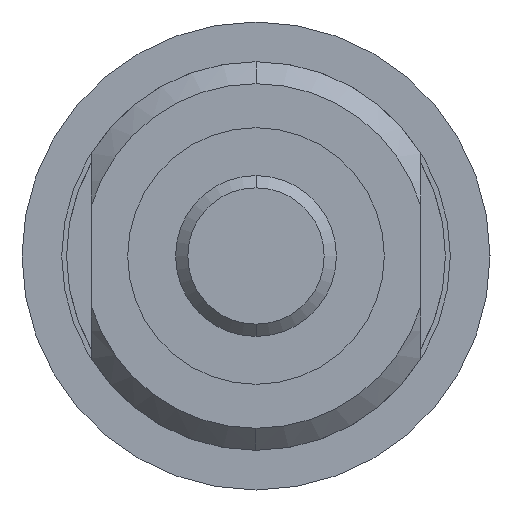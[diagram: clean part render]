
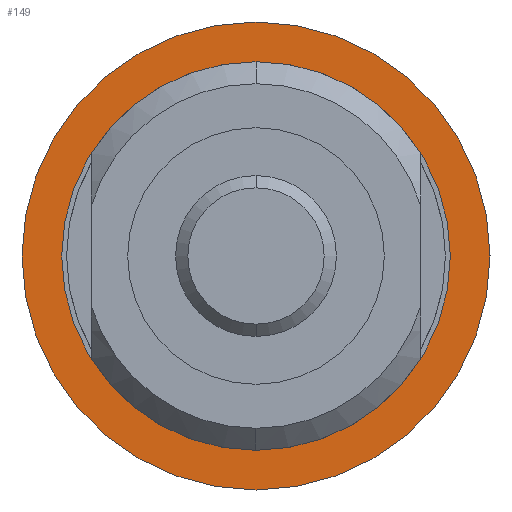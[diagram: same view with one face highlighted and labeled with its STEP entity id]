
A CAD part, left-side view. The second image highlights one B-rep face of the part: STEP entity #149.
In plain terms, the highlighted planar face has unit normal (-1, 0, 0).
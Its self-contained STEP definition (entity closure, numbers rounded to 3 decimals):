
#149=ADVANCED_FACE('',(#319,#320),#321,.T.);
#319=FACE_BOUND('',#505,.T.);
#320=FACE_OUTER_BOUND('',#506,.T.);
#321=PLANE('',#507);
#505=EDGE_LOOP('',(#1131,#1132));
#506=EDGE_LOOP('',(#1133,#1134));
#507=AXIS2_PLACEMENT_3D('',#1135,#1136,#1137);
#1131=ORIENTED_EDGE('',*,*,#1244,.F.);
#1132=ORIENTED_EDGE('',*,*,#1422,.F.);
#1133=ORIENTED_EDGE('',*,*,#1250,.T.);
#1134=ORIENTED_EDGE('',*,*,#1421,.T.);
#1135=CARTESIAN_POINT('',(52.5,0.,-17.525));
#1136=DIRECTION('',(-1.0,0.,0.));
#1137=DIRECTION('',(0.,0.0,-1.0));
#1244=EDGE_CURVE('',#1480,#1483,#1484,.T.);
#1250=EDGE_CURVE('',#1489,#1493,#1495,.T.);
#1421=EDGE_CURVE('',#1493,#1489,#1773,.T.);
#1422=EDGE_CURVE('',#1483,#1480,#1774,.T.);
#1480=VERTEX_POINT('',#1852);
#1483=VERTEX_POINT('',#1856);
#1484=CIRCLE('',#1857,15.9);
#1489=VERTEX_POINT('',#1863);
#1493=VERTEX_POINT('',#1868);
#1495=CIRCLE('',#1871,19.15);
#1773=CIRCLE('',#2293,19.15);
#1774=CIRCLE('',#2294,15.9);
#1852=CARTESIAN_POINT('',(52.5,0.,-15.9));
#1856=CARTESIAN_POINT('',(52.5,0.,15.9));
#1857=AXIS2_PLACEMENT_3D('',#2354,#2355,#2356);
#1863=CARTESIAN_POINT('',(52.5,0.,-19.15));
#1868=CARTESIAN_POINT('',(52.5,0.,19.15));
#1871=AXIS2_PLACEMENT_3D('',#2366,#2367,#2368);
#2293=AXIS2_PLACEMENT_3D('',#2636,#2637,#2638);
#2294=AXIS2_PLACEMENT_3D('',#2639,#2640,#2641);
#2354=CARTESIAN_POINT('',(52.5,0.,0.));
#2355=DIRECTION('',(-1.0,0.,0.));
#2356=DIRECTION('',(0.,0.0,-1.0));
#2366=CARTESIAN_POINT('',(52.5,0.,0.));
#2367=DIRECTION('',(-1.0,0.,0.));
#2368=DIRECTION('',(0.,0.0,-1.0));
#2636=CARTESIAN_POINT('',(52.5,0.,0.));
#2637=DIRECTION('',(-1.0,0.,0.));
#2638=DIRECTION('',(0.,0.0,-1.0));
#2639=CARTESIAN_POINT('',(52.5,0.,0.));
#2640=DIRECTION('',(-1.0,0.,0.));
#2641=DIRECTION('',(0.,0.0,-1.0));
